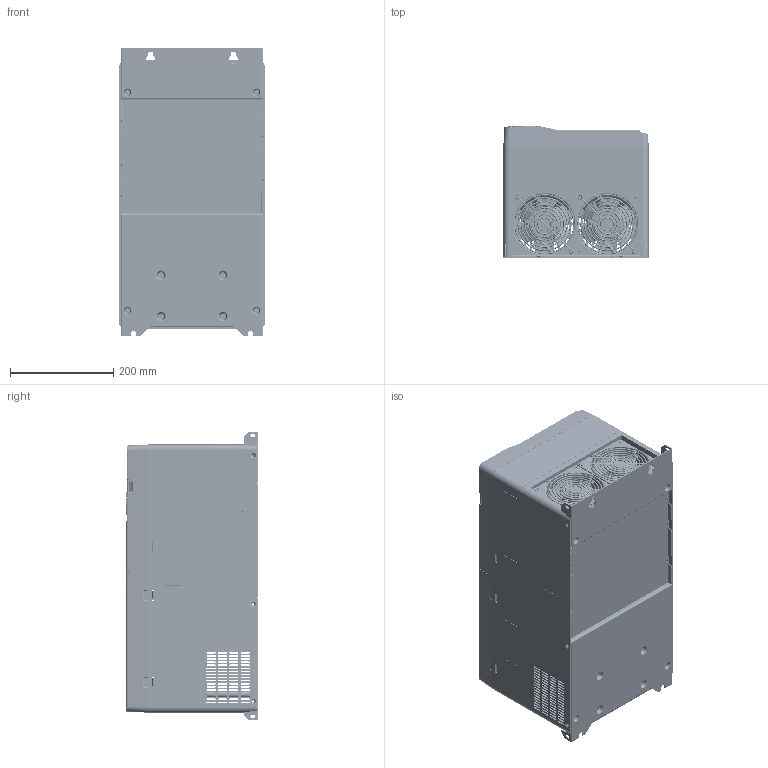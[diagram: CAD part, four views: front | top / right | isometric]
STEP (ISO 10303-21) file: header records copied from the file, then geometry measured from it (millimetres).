
FILE_DESCRIPTION((''),'2;1');
FILE_NAME('Open CASCADE Shape Model','2021-03-30T09:09:25',( 'Administrator'),(''),'Open CASCADE STEP processor 7.6', 'PRO/ENGINEER BY PARAMETRIC TECHNOLOGY CORPORATION, 2010100','Unknown' );
FILE_SCHEMA(('AUTOMOTIVE_DESIGN_CC2 { 1 2 10303 214 -1 1 5 4 }'));
Length unit declared in the file: millimetre
Products named in the file (32): GD350-075G-4_ASM; 80710015; 80740140; 80880255; 70610346; 70610345; 80310386_ASM; 80310386; S-M4-ZC; 80780047; 40840244_ASM; GD350-075G-4-ES_ASM; 2-21-12-123-4C-230HBT; FENGSHANWANG_S; 39003-00040_RICHCO; 80740019; KEY-LCD01-ZY-350_ASM; 80740163; 40810091_ASM; 80740162; 80880456; 80880456SY; 80740164; 80740164SY; KEY-LCD01-ZY-350-ES_ASM; 36002-00065; 39009-00082; 17003-02723_20180403_ASM; 17003-02723_20180403; 80810123; 80810123SY; 80810124
Assembly tree (44 placements, depth 6):
  GD350-075G-4_ASM
    80710015
    80740140
    80880255
    70610346
    70610345
    80310386_ASM
      80310386
      S-M4-ZC  x6
    80780047
    40840244_ASM
    GD350-075G-4-ES_ASM
      2-21-12-123-4C-230HBT  x2
      FENGSHANWANG_S  x2
      39003-00040_RICHCO  x2
      80740019  x6
      KEY-LCD01-ZY-350_ASM
        80740163
        40810091_ASM
          80740162
          80880456
          80880456SY
        80740164
        80740164SY
        KEY-LCD01-ZY-350-ES_ASM
          36002-00065
          39009-00082
          17003-02723_20180403_ASM
            17003-02723_20180403
    80810123
    80810123SY
    80810124
Bounding box: 282.6 x 257.12 x 560 mm (x, y, z)
Volume: 4190145.1 mm3; surface area: 2866420.5 mm2
Topology: 34 solids, 34 shells, 14413 faces, 39790 edges, 25734 vertices
Faces by surface type: plane 8332, cylinder 3998, torus 717, bspline 540, cone 417, extrusion 332, sphere 45, revolution 32
Entity records: 474391 total; most frequent: CARTESIAN_POINT 124306, ORIENTED_EDGE 75120, DIRECTION 68984, EDGE_CURVE 37560, VECTOR 26026, LINE 25708, VERTEX_POINT 24349, AXIS2_PLACEMENT_3D 21471
